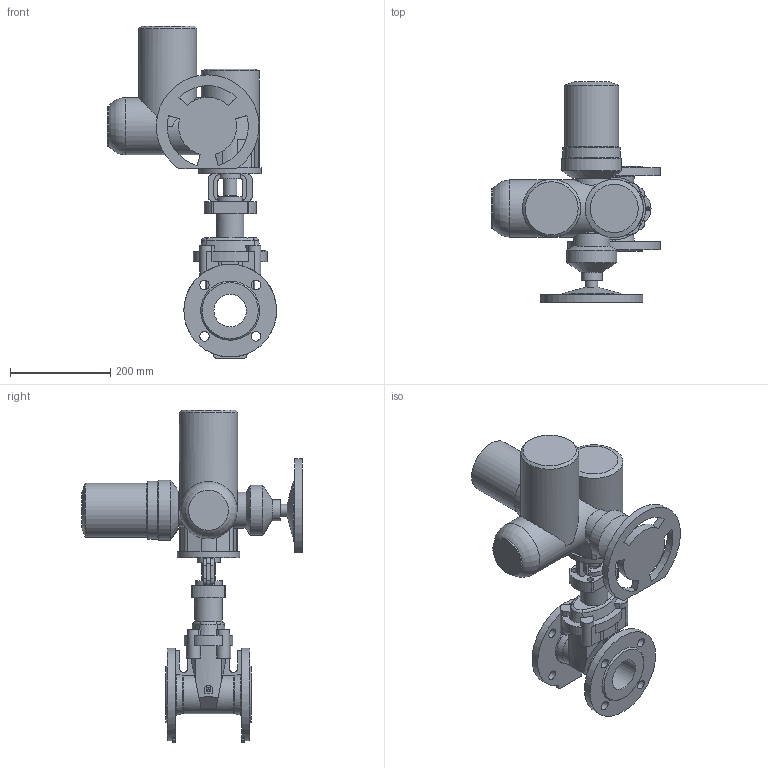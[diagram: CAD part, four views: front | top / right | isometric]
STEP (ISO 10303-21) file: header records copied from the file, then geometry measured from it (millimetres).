
FILE_DESCRIPTION(('STEP AP203'), '1');
FILE_NAME('青溻桄赅 47GV.M DN65 + MT903.A07', '', ('UNSPECIFIED'), ('UNSPECIFIED'), 'ASCON STEP Converter 1.6', 'ASCON Math Kernel', '');
FILE_SCHEMA(('CONFIG_CONTROL_DESIGN'));
Length unit declared in the file: millimetre
Bounding box: 337.5 x 440 x 662.5 mm (x, y, z)
Volume: 10668047.7 mm3; surface area: 702151.8 mm2
Topology: 2 solids, 2 shells, 325 faces, 856 edges, 561 vertices
Faces by surface type: plane 163, cylinder 135, cone 18, torus 9
Full cylindrical faces by diameter (mm): 8.5 x4, 12 x8, 18 x1, 19 x8, 24 x1, 27 x1, 29 x2, 42 x1, 52 x1, 55 x1, 65 x1, 66 x1, 70 x1, 72 x1, 80 x1, 100 x1, 108 x1, 114 x1, 115 x1, 116 x2, 119 x1, 125 x1, 185 x2
Entity records: 15117 total; most frequent: CARTESIAN_POINT 4490, DIRECTION 1680, ORIENTED_EDGE 1598, EDGE_CURVE 799, AXIS2_PLACEMENT_3D 650, VERTEX_POINT 561, EDGE_LOOP 442, LINE 380
